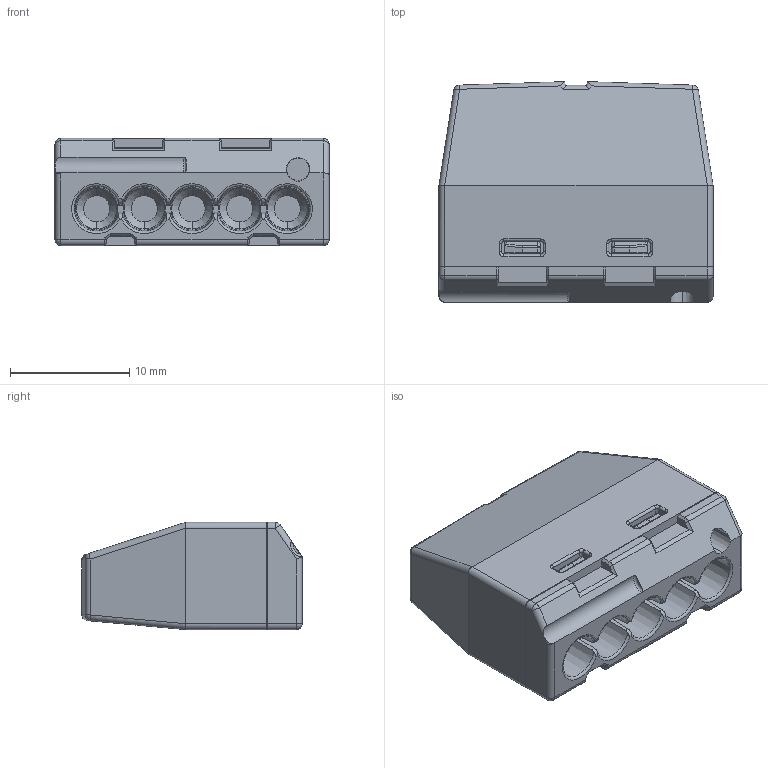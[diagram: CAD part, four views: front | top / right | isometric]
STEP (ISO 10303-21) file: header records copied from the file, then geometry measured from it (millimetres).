
FILE_DESCRIPTION(('Creo Elements/Direct Modeling STEP Export'),'2;1');
FILE_NAME('OK-5.stp','2014-09-02T11:11:49',(''),(''),'Creo Elements/Direct Modeling STEP processor for AP214 (Solid Model)','Creo Elements/Direct Modeling 18.1B 29-Sep-2012 (C) Parametric Technology GmbH','');
FILE_SCHEMA(('AUTOMOTIVE_DESIGN { 1 0 10303 214 1 1 1 1 }'));
Length unit declared in the file: millimetre
Products named in the file (2): OK-5; H99-0004-CE901_OK-5
Assembly tree (1 placements, depth 2):
  H99-0004-CE901_OK-5
    OK-5
Bounding box: 23 x 18.5 x 9 mm (x, y, z)
Volume: 2790.6 mm3; surface area: 2497.5 mm2
Topology: 1 solids, 1 shells, 327 faces, 854 edges, 525 vertices
Faces by surface type: plane 137, cylinder 115, cone 28, torus 27, sphere 12, bspline 8
Entity records: 11152 total; most frequent: CARTESIAN_POINT 3428, ORIENTED_EDGE 1684, DIRECTION 1491, EDGE_CURVE 842, VERTEX_POINT 525, AXIS2_PLACEMENT_3D 518, VECTOR 455, LINE 455
